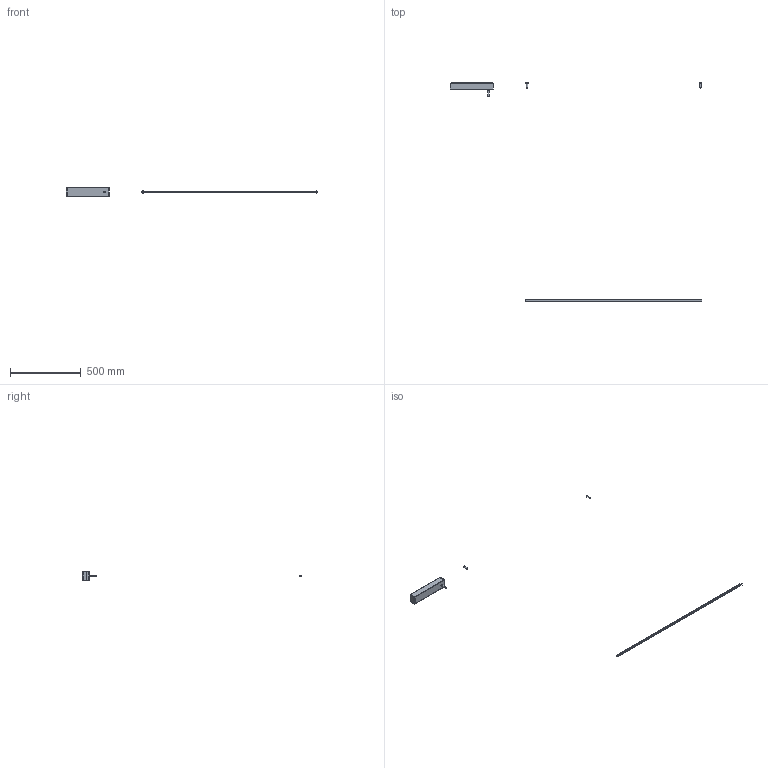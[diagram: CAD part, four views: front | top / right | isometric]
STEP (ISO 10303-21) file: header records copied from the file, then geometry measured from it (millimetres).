
FILE_DESCRIPTION(/* description */ (''),/* implementation_level */ '2;1');
FILE_NAME(/* name */ 'C:\Users\Giulia\Desktop\1712 - SHANGHAI.stp',/* time_stamp */ '2016-03-23T09:38:46+01:00',/* author */ ('Giulia'),/* organization */ (''),/* preprocessor_version */ 'ST-DEVELOPER v16.1',/* originating_system */ 'Autodesk Inventor 2016',/* authorisation */ '');
FILE_SCHEMA (('AUTOMOTIVE_DESIGN { 1 0 10303 214 3 1 1 }'));
Length unit declared in the file: millimetre
Products named in the file (4): CORPO; ROSONCINO; ROSONE ST3712XX00A_Shrinkwrap_1; 1712 - SHANGHAI
Assembly tree (4 placements, depth 2):
  1712 - SHANGHAI
    CORPO
    ROSONCINO  x2
    ROSONE ST3712XX00A_Shrinkwrap_1
Bounding box: 1784.55 x 1546 x 62 mm (x, y, z)
Volume: 888564.8 mm3; surface area: 237487.9 mm2
Topology: 4 solids, 4 shells, 142 faces, 323 edges, 202 vertices
Faces by surface type: plane 99, cylinder 40, torus 2, cone 1
Full cylindrical faces by diameter (mm): 1 x2, 2.5 x2, 3 x2, 4.5 x1, 7 x2, 11.176 x1, 12 x3, 12.001 x1, 16 x2
Entity records: 3631 total; most frequent: DIRECTION 616, CARTESIAN_POINT 571, ORIENTED_EDGE 532, EDGE_CURVE 266, AXIS2_PLACEMENT_3D 217, LINE 182, VECTOR 182, VERTEX_POINT 172
